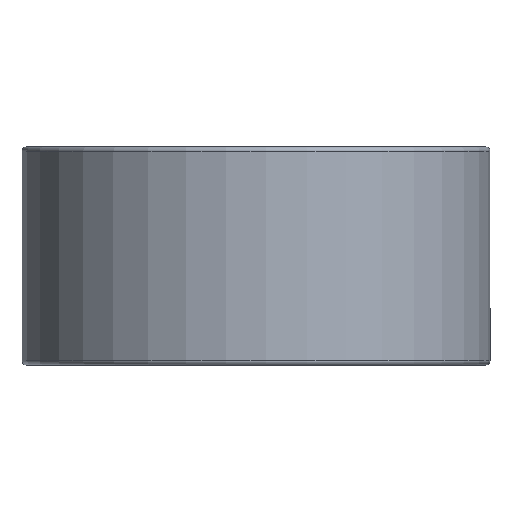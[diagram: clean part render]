
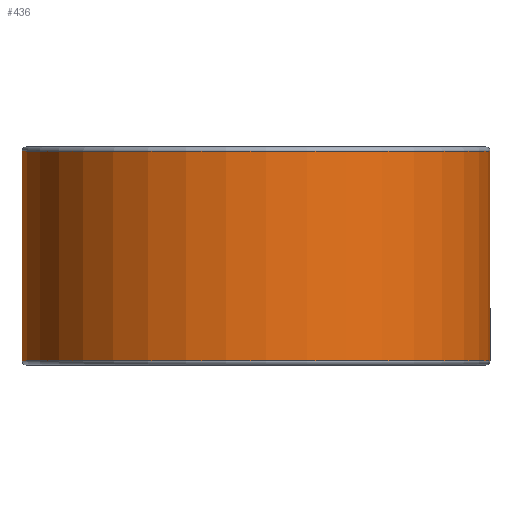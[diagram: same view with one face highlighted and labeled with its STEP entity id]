
A CAD part, front view. The second image highlights one B-rep face of the part: STEP entity #436.
In plain terms, the highlighted cylindrical face has radius 29 mm (diameter 58 mm), a full revolution.
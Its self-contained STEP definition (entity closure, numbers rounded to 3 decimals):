
#372=FACE_BOUND('',#578,.T.);
#373=FACE_BOUND('',#579,.T.);
#436=ADVANCED_FACE('',(#372,#373),#509,.T.);
#509=CYLINDRICAL_SURFACE('',#1414,29.);
#578=EDGE_LOOP('',(#753));
#579=EDGE_LOOP('',(#754));
#689=CIRCLE('',#1412,29.);
#690=CIRCLE('',#1413,29.);
#753=ORIENTED_EDGE('',*,*,#1125,.T.);
#754=ORIENTED_EDGE('',*,*,#1126,.T.);
#1025=VERTEX_POINT('',#1913);
#1026=VERTEX_POINT('',#1915);
#1125=EDGE_CURVE('',#1025,#1025,#689,.T.);
#1126=EDGE_CURVE('',#1026,#1026,#690,.T.);
#1412=AXIS2_PLACEMENT_3D('',#1912,#1565,#1566);
#1413=AXIS2_PLACEMENT_3D('',#1914,#1567,#1568);
#1414=AXIS2_PLACEMENT_3D('',#1916,#1569,#1570);
#1565=DIRECTION('',(0.,0.,-1.));
#1566=DIRECTION('',(1.,0.,0.));
#1567=DIRECTION('',(0.,0.,1.));
#1568=DIRECTION('',(1.,0.,0.));
#1569=DIRECTION('',(0.,0.,-1.));
#1570=DIRECTION('',(-1.,0.,0.));
#1912=CARTESIAN_POINT('',(0.,0.,26.5));
#1913=CARTESIAN_POINT('',(29.,0.,26.5));
#1914=CARTESIAN_POINT('',(0.,0.,0.5));
#1915=CARTESIAN_POINT('',(29.,0.,0.5));
#1916=CARTESIAN_POINT('',(0.,0.,27.));
